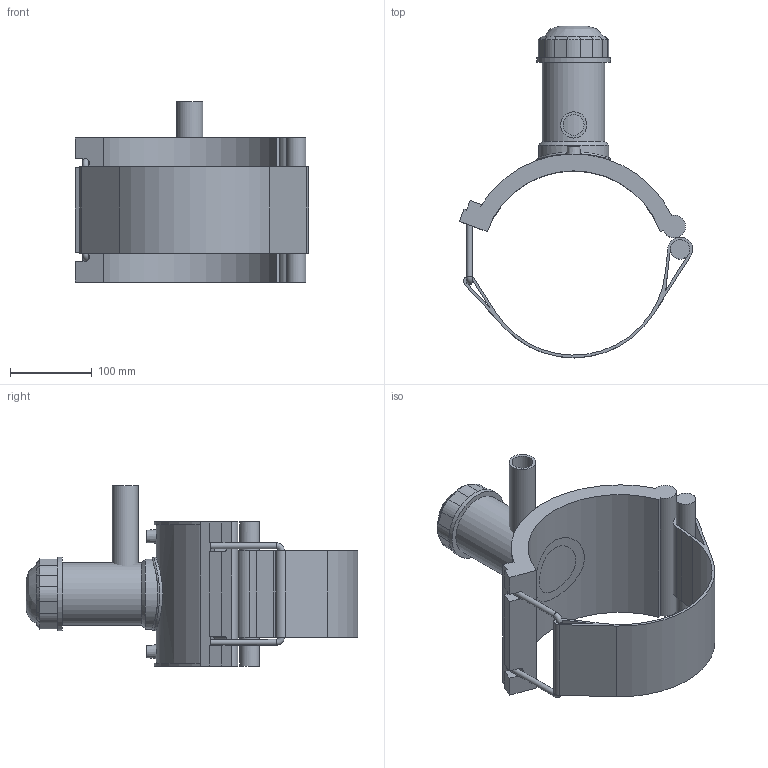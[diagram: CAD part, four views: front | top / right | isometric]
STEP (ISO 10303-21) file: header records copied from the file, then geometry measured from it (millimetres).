
FILE_DESCRIPTION(/* description */ (''),/* implementation_level */ '2;1');
FILE_NAME(/* name */ 'C:\Dropbox\KIMPROJECTS-Inventor 2019\99-16-3568-Processing\ElectroFusion Fittings\4963P4\stp\4963P4225032.stp',/* time_stamp */ '2022-03-17T11:32:22+02:00',/* author */ ('KIM'),/* organization */ (''),/* preprocessor_version */ 'ST-DEVELOPER v17.2',/* originating_system */ 'Autodesk Inventor 2019',/* authorisation */ '');
FILE_SCHEMA (('AUTOMOTIVE_DESIGN { 1 0 10303 214 3 1 1 }'));
Length unit declared in the file: millimetre
Products named in the file (1): 4963P4225032
Bounding box: 284.81 x 405.37 x 220 mm (x, y, z)
Volume: 1920844.5 mm3; surface area: 378995.1 mm2
Topology: 3 solids, 3 shells, 118 faces, 303 edges, 197 vertices
Faces by surface type: plane 65, cylinder 38, cone 11, torus 2, bspline 2
Full cylindrical faces by diameter (mm): 4 x2, 7.2 x2, 10 x2, 23.712 x1, 25.6 x1, 32 x1, 63 x1, 76.5 x1, 85.5 x1, 90 x2
Entity records: 4128 total; most frequent: CARTESIAN_POINT 1106, DIRECTION 639, ORIENTED_EDGE 608, EDGE_CURVE 304, AXIS2_PLACEMENT_3D 233, VERTEX_POINT 197, LINE 173, VECTOR 173
